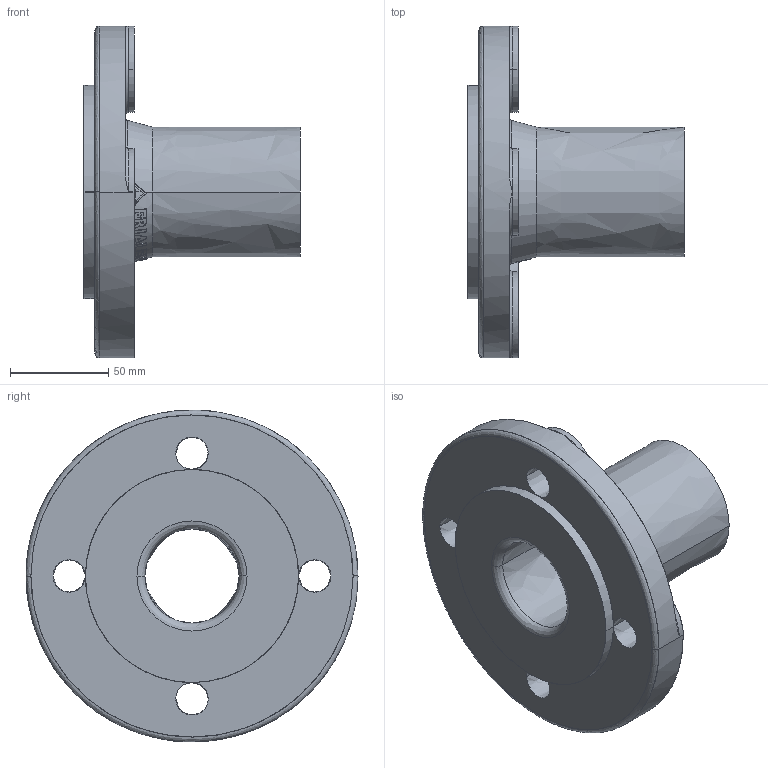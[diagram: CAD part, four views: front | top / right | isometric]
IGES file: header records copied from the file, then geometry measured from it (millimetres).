
Start section:  PTC IGES file: efl_d063_dn50_01.igs
Global section: file name: efl_d063_dn50_01.igs; native system: Pro/ENGINEER by Parametric Technology Corporation; preprocessor: 2011490; author: mtunjic; organization: Unknown; date: 20130819.142838; units: millimetre
Bounding box: 110 x 169 x 169 mm (x, y, z)
Surface area: 98291 mm2 (no closed solid volume)
Topology: 0 solids, 0 shells, 317 faces, 1588 edges, 1588 vertices
Faces by surface type: bspline 317
